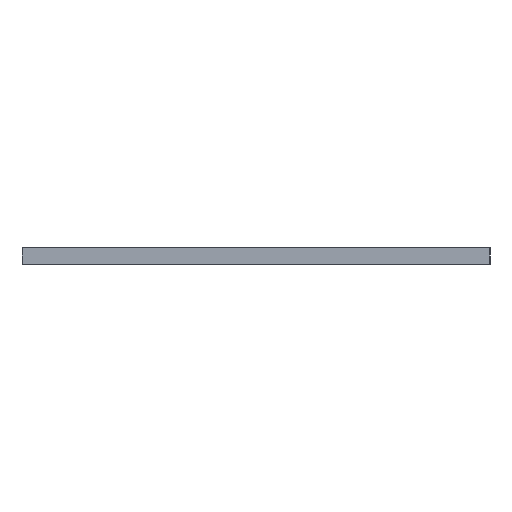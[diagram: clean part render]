
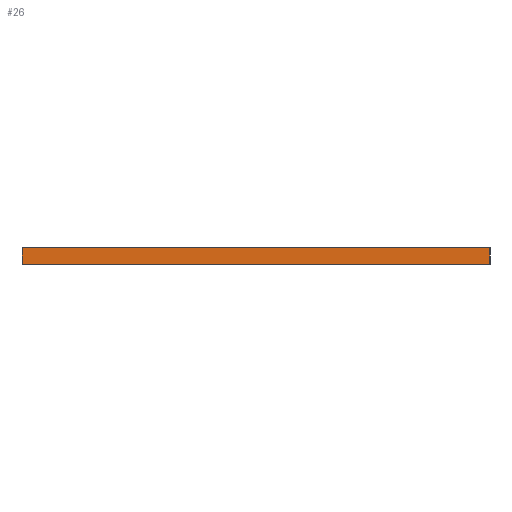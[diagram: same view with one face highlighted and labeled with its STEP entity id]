
A CAD part, left-side view. The second image highlights one B-rep face of the part: STEP entity #26.
In plain terms, the highlighted planar face has unit normal (-1, 0, 0).
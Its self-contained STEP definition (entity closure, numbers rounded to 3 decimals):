
#26=ADVANCED_FACE('',(#78),#961,.T.);
#78=FACE_OUTER_BOUND('',#130,.T.);
#130=EDGE_LOOP('',(#194,#195,#196,#197));
#194=ORIENTED_EDGE('',*,*,#486,.T.);
#195=ORIENTED_EDGE('',*,*,#487,.T.);
#196=ORIENTED_EDGE('',*,*,#488,.T.);
#197=ORIENTED_EDGE('',*,*,#489,.T.);
#486=EDGE_CURVE('',#819,#820,#755,.T.);
#487=EDGE_CURVE('',#820,#821,#756,.T.);
#488=EDGE_CURVE('',#821,#822,#757,.T.);
#489=EDGE_CURVE('',#822,#819,#758,.T.);
#755=B_SPLINE_CURVE_WITH_KNOTS('',1,(#3049,#3050),.UNSPECIFIED.,.F.,.F.,
(2,2),(0.,12.7),.UNSPECIFIED.);
#756=B_SPLINE_CURVE_WITH_KNOTS('',1,(#3051,#3052),.UNSPECIFIED.,.F.,.F.,
(2,2),(0.,352.425),.UNSPECIFIED.);
#757=B_SPLINE_CURVE_WITH_KNOTS('',1,(#3053,#3054),.UNSPECIFIED.,.F.,.F.,
(2,2),(0.,12.7),.UNSPECIFIED.);
#758=B_SPLINE_CURVE_WITH_KNOTS('',1,(#3055,#3056),.UNSPECIFIED.,.F.,.F.,
(2,2),(0.,352.425),.UNSPECIFIED.);
#819=VERTEX_POINT('',#2953);
#820=VERTEX_POINT('',#2954);
#821=VERTEX_POINT('',#2955);
#822=VERTEX_POINT('',#2956);
#961=PLANE('',#1055);
#1055=AXIS2_PLACEMENT_3D('',#1250,#1132,$);
#1132=DIRECTION('',(-1.,0.,0.));
#1250=CARTESIAN_POINT('',(0.,387.788,-1.39));
#2953=CARTESIAN_POINT('',(0.,0.,0.));
#2954=CARTESIAN_POINT('',(0.,0.,12.7));
#2955=CARTESIAN_POINT('',(0.,352.425,12.7));
#2956=CARTESIAN_POINT('',(0.,352.425,0.));
#3049=CARTESIAN_POINT('',(0.,0.,0.));
#3050=CARTESIAN_POINT('',(0.,0.,12.7));
#3051=CARTESIAN_POINT('',(0.,0.,12.7));
#3052=CARTESIAN_POINT('',(0.,352.425,12.7));
#3053=CARTESIAN_POINT('',(0.,352.425,12.7));
#3054=CARTESIAN_POINT('',(0.,352.425,0.));
#3055=CARTESIAN_POINT('',(0.,352.425,0.));
#3056=CARTESIAN_POINT('',(0.,0.,0.));
